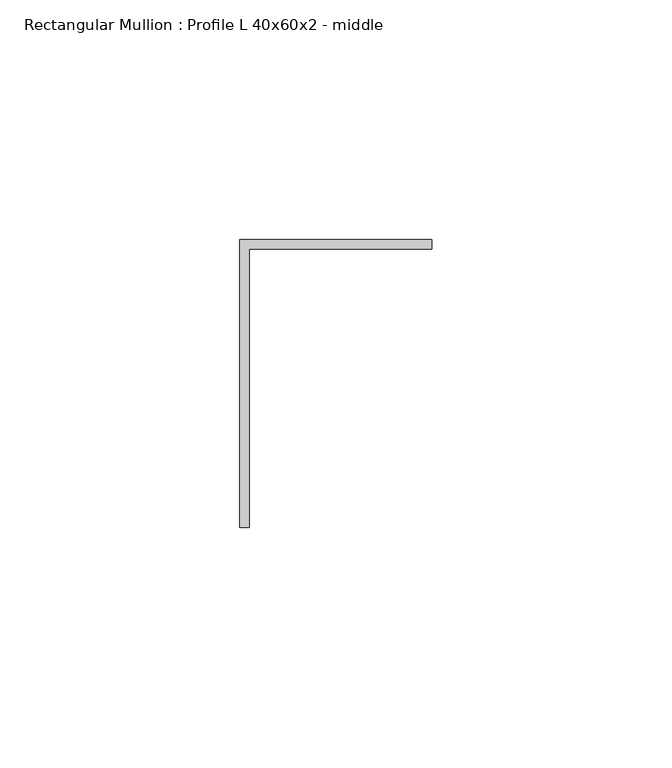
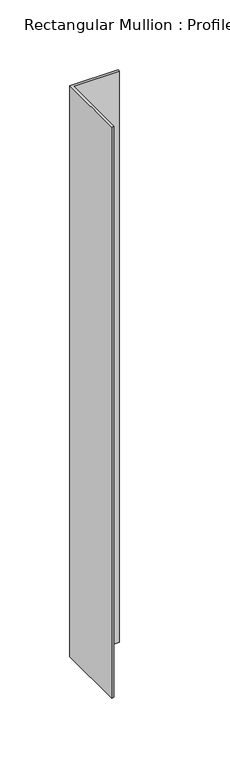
"""IFC4 building model written with IfcOpenShell, lengths in millimetres: member geometry, Rectangular Mullion : Profile L 40x60x2 - middle."""

from ifc_helpers import new_model, si_unit, frame, origin, place, context, project, spatial, polyline, outline, extrude, source, transform, mapped, element, save


def rectangular_mullion_profile_l_40x60x2_middle_c334e065(model_context):
    return source(origin(), model_context, "Body", "SweptSolid", [
        extrude(outline(polyline([(-20.0, -49.5), (20.0, -49.5), (20.0, -51.5), (-18.0, -51.5), (-18.0, -109.5), (-20.0, -109.5), (-20.0, -49.5)])), frame((0.0, 0.0, -500.0), z_axis=(0.0, 0.0, 1.0), x_axis=(1.0, 0.0, 0.0)), (0.0, 0.0, 1.0), 500.0),
    ])


if __name__ == "__main__":
    model = new_model("IFC4")
    model_context = context("Model", 3, world=origin())
    ifc_project = project(units=[si_unit("LENGTHUNIT", "METRE", prefix="MILLI")], contexts=[model_context])
    site = spatial("IfcSite", under=ifc_project)
    building = spatial("IfcBuilding", under=site)
    placement = place(None, origin())
    rectangular_mullion_profile_l_40x60x2_middle_shape = rectangular_mullion_profile_l_40x60x2_middle_c334e065(model_context)
    element("IfcMember", 1, ObjectType="Rectangular Mullion : Profile L 40x60x2 - middle", at=placement, inside=building, context=model_context, shape_type="MappedRepresentation", body=[
        mapped(rectangular_mullion_profile_l_40x60x2_middle_shape, transform((0.0, 0.0, 0.0), x_axis=(1.0, 0.0, 0.0), y_axis=(0.0, 1.0, 0.0), z_axis=(0.0, 0.0, 1.0))),
    ])
    save(model, "model.ifc")
